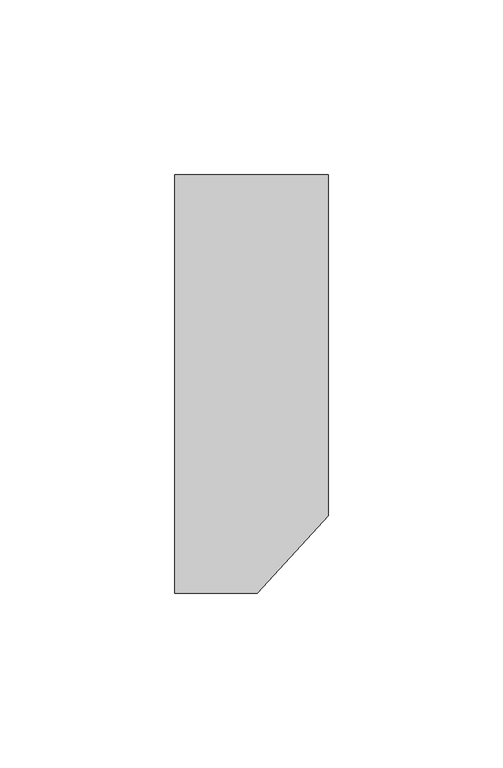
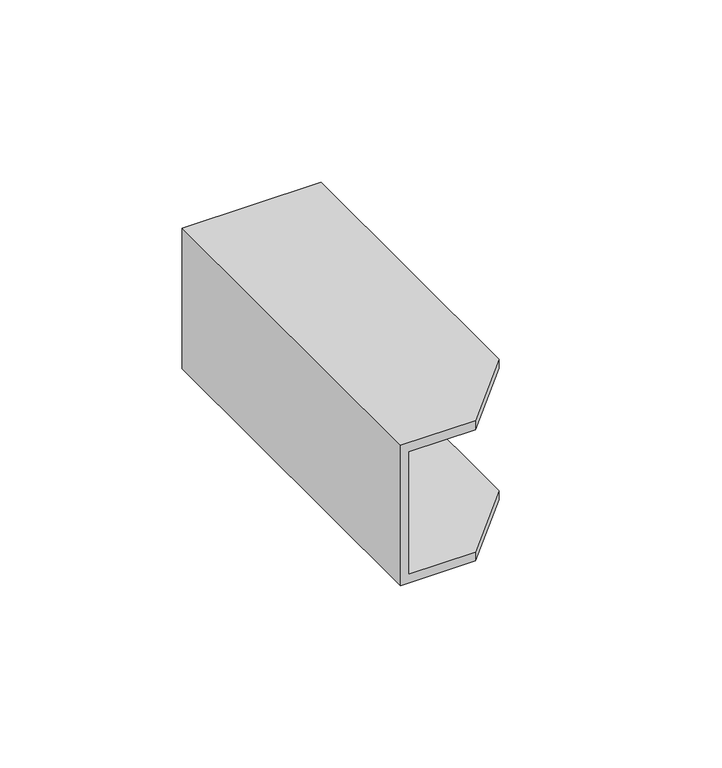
"""IFC4 building model written with IfcOpenShell, lengths in millimetres: proxy geometry, KA41-2_Articulated gusset-Basorfix : Basorfix KA41-2 GC."""

from ifc_helpers import new_model, si_unit, origin, place, context, project, spatial, faceted_brep, source, transform, mapped, element, save


def generic_models_7039986b(model_context):
    return source(origin(), model_context, "Body", "Brep", [
        faceted_brep([(0.0, -15.0, 46.9962229), (0.0, -15.0, 0.0), (23.7322026, -15.0, 0.0), (23.7322026, -15.0, 3.0), (2.5, -15.0, 3.0), (2.5, -15.0, 43.9962229), (23.7322026, -15.0, 43.9962229), (23.7322026, -15.0, 46.9962229), (44.0, 105.0, 46.9962229), (44.0, 105.0, 43.9962229), (2.5, 105.0, 43.9962229), (2.5, 105.0, 3.0), (44.0, 105.0, 3.0), (44.0, 105.0, 0.0), (0.0, 105.0, 0.0), (0.0, 105.0, 46.9962229), (44.0, 7.2228441, 46.9962229), (44.0, 7.2228441, 0.0), (44.0, 7.2228441, 3.0), (44.0, 7.2228441, 43.9962229)], [[[0, 1, 2, 3, 4, 5, 6, 7]], [[8, 9, 10, 11, 12, 13, 14, 15]], [[8, 15, 0, 7, 16]], [[1, 0, 15, 14]], [[14, 13, 17, 2, 1]], [[13, 12, 18, 17]], [[12, 11, 4, 3, 18]], [[5, 4, 11, 10]], [[10, 9, 19, 6, 5]], [[9, 8, 16, 19]], [[3, 2, 17, 18]], [[7, 6, 19, 16]]]),
    ])


if __name__ == "__main__":
    model = new_model("IFC4")
    model_context = context("Model", 3, world=origin())
    ifc_project = project(units=[si_unit("LENGTHUNIT", "METRE", prefix="MILLI")], contexts=[model_context])
    site = spatial("IfcSite", under=ifc_project)
    building = spatial("IfcBuilding", under=site)
    placement = place(None, origin())
    generic_models_shape = generic_models_7039986b(model_context)
    element("IfcBuildingElementProxy", 1, Name="KA41-2_Articulated gusset-Basorfix : Basorfix KA41-2 GC", ObjectType="KA41-2_Articulated gusset-Basorfix : Basorfix KA41-2 GC", at=placement, inside=building, context=model_context, shape_type="MappedRepresentation", body=[
        mapped(generic_models_shape, transform((0.0, 0.0, 0.0), x_axis=(1.0, 0.0, 0.0), y_axis=(0.0, 1.0, 0.0), z_axis=(0.0, 0.0, 1.0))),
    ])
    save(model, "model.ifc")
